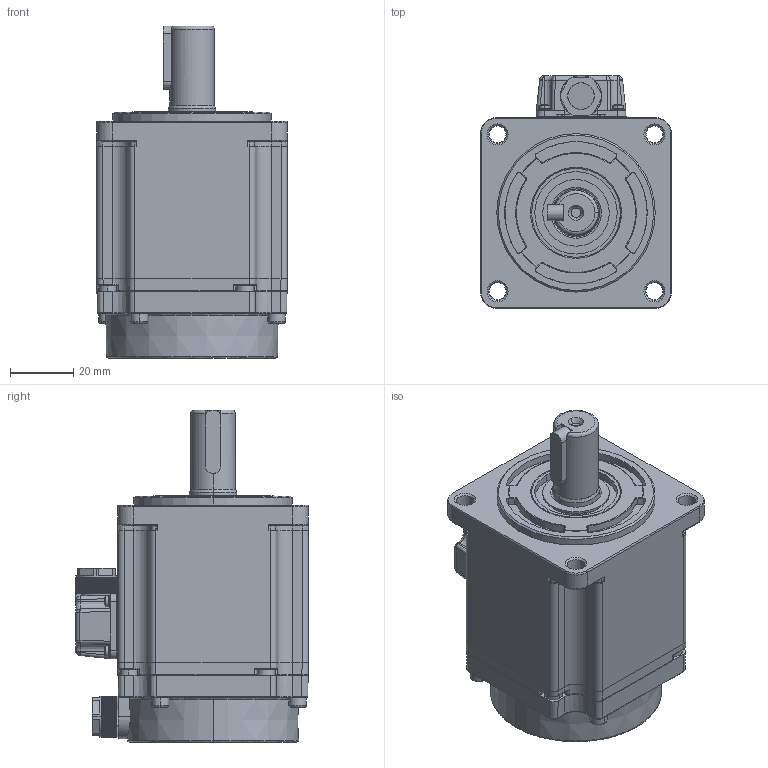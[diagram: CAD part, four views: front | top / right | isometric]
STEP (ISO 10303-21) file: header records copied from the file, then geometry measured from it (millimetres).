
FILE_DESCRIPTION (( 'STEP AP203' ), '1' );
FILE_NAME ('G3系列60ST-200W标准电机三维图.STEP', '2023-09-27T05:23:33', ( '微软用户' ), ( '微软中国' ), 'SwSTEP 2.0', 'SolidWorks 2016', '' );
FILE_SCHEMA (( 'CONFIG_CONTROL_DESIGN' ));
Products named in the file (1): G3系列60ST-200W标准电机三维图
Bounding box: 60.2 x 73.5 x 104.8 mm (x, y, z)
Volume: 102805.6 mm3; surface area: 69899 mm2
Topology: 21 solids, 21 shells, 2937 faces, 7161 edges, 4358 vertices
Faces by surface type: plane 1610, cylinder 540, cone 513, bspline 163, torus 95, sphere 16
Entity records: 89363 total; most frequent: CARTESIAN_POINT 20618, DIRECTION 14546, ORIENTED_EDGE 14290, EDGE_CURVE 7145, AXIS2_PLACEMENT_3D 5193, VERTEX_POINT 4358, LINE 4160, VECTOR 4160
